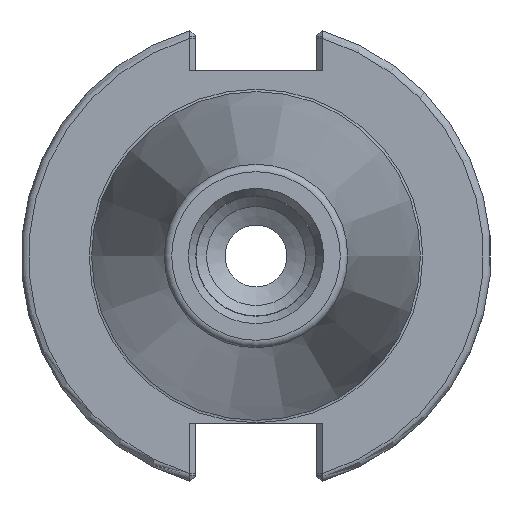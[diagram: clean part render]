
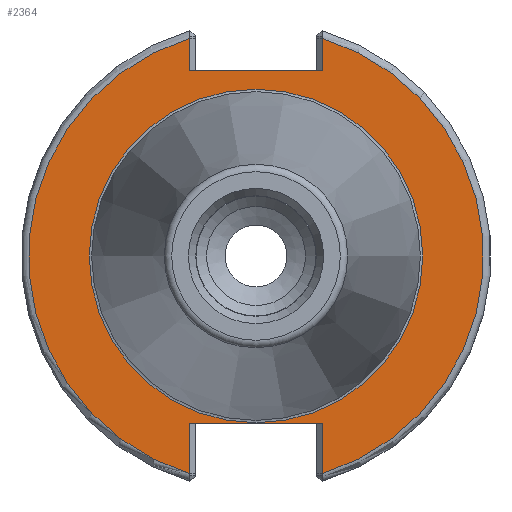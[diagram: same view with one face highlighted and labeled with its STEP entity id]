
A CAD part, left-side view. The second image highlights one B-rep face of the part: STEP entity #2364.
In plain terms, the highlighted planar face has unit normal (-1, 0, 0).
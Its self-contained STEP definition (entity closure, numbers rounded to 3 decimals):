
#141=FACE_BOUND('',#420,.T.);
#156=PLANE('',#2606);
#278=FACE_OUTER_BOUND('',#419,.T.);
#419=EDGE_LOOP('',(#1743,#1744,#1745,#1746,#1747,#1748,#1749,#1750));
#420=EDGE_LOOP('',(#1751,#1752));
#546=LINE('',#3628,#681);
#559=LINE('',#3757,#694);
#561=LINE('',#3836,#696);
#562=LINE('',#3838,#697);
#563=LINE('',#3841,#698);
#564=LINE('',#3842,#699);
#681=VECTOR('',#2955,10.);
#694=VECTOR('',#2988,10.);
#696=VECTOR('',#3010,10.);
#697=VECTOR('',#3011,10.);
#698=VECTOR('',#3014,10.);
#699=VECTOR('',#3015,10.);
#850=CIRCLE('',#2605,30.75);
#851=CIRCLE('',#2607,30.75);
#852=CIRCLE('',#2608,22.55);
#853=CIRCLE('',#2609,22.55);
#994=VERTEX_POINT('',#3625);
#995=VERTEX_POINT('',#3627);
#1009=VERTEX_POINT('',#3750);
#1012=VERTEX_POINT('',#3755);
#1019=VERTEX_POINT('',#3814);
#1021=VERTEX_POINT('',#3835);
#1022=VERTEX_POINT('',#3837);
#1023=VERTEX_POINT('',#3839);
#1024=VERTEX_POINT('',#3843);
#1025=VERTEX_POINT('',#3844);
#1261=EDGE_CURVE('',#995,#994,#546,.T.);
#1282=EDGE_CURVE('',#1012,#1009,#559,.T.);
#1294=EDGE_CURVE('',#1009,#1019,#850,.T.);
#1297=EDGE_CURVE('',#1012,#1021,#561,.T.);
#1298=EDGE_CURVE('',#1022,#1021,#562,.T.);
#1299=EDGE_CURVE('',#1023,#1022,#851,.T.);
#1300=EDGE_CURVE('',#995,#1023,#563,.T.);
#1301=EDGE_CURVE('',#1019,#994,#564,.T.);
#1302=EDGE_CURVE('',#1024,#1025,#852,.T.);
#1303=EDGE_CURVE('',#1025,#1024,#853,.T.);
#1743=ORIENTED_EDGE('',*,*,#1282,.F.);
#1744=ORIENTED_EDGE('',*,*,#1297,.T.);
#1745=ORIENTED_EDGE('',*,*,#1298,.F.);
#1746=ORIENTED_EDGE('',*,*,#1299,.F.);
#1747=ORIENTED_EDGE('',*,*,#1300,.F.);
#1748=ORIENTED_EDGE('',*,*,#1261,.T.);
#1749=ORIENTED_EDGE('',*,*,#1301,.F.);
#1750=ORIENTED_EDGE('',*,*,#1294,.F.);
#1751=ORIENTED_EDGE('',*,*,#1302,.F.);
#1752=ORIENTED_EDGE('',*,*,#1303,.F.);
#2364=ADVANCED_FACE('',(#278,#141),#156,.T.);
#2605=AXIS2_PLACEMENT_3D('',#3815,#3006,#3007);
#2606=AXIS2_PLACEMENT_3D('',#3834,#3008,#3009);
#2607=AXIS2_PLACEMENT_3D('',#3840,#3012,#3013);
#2608=AXIS2_PLACEMENT_3D('',#3845,#3016,#3017);
#2609=AXIS2_PLACEMENT_3D('',#3846,#3018,#3019);
#2955=DIRECTION('',(0.,1.,0.));
#2988=DIRECTION('',(0.,0.,-1.));
#3006=DIRECTION('center_axis',(1.,0.,0.));
#3007=DIRECTION('ref_axis',(0.,-1.,0.));
#3008=DIRECTION('center_axis',(-1.,0.,0.));
#3009=DIRECTION('ref_axis',(0.,0.,1.));
#3010=DIRECTION('',(0.,-1.,0.));
#3011=DIRECTION('',(0.,0.,1.));
#3012=DIRECTION('center_axis',(1.,0.,0.));
#3013=DIRECTION('ref_axis',(0.,-1.,0.));
#3014=DIRECTION('',(0.,0.,1.));
#3015=DIRECTION('',(0.,0.,-1.));
#3016=DIRECTION('center_axis',(-1.,0.,0.));
#3017=DIRECTION('ref_axis',(0.,-1.,0.));
#3018=DIRECTION('center_axis',(-1.,0.,0.));
#3019=DIRECTION('ref_axis',(0.,-1.,0.));
#3625=CARTESIAN_POINT('',(3.175,8.992,25.019));
#3627=CARTESIAN_POINT('',(3.175,-8.992,25.019));
#3628=CARTESIAN_POINT('',(3.175,19.971,25.019));
#3750=CARTESIAN_POINT('',(3.175,8.992,-29.406));
#3755=CARTESIAN_POINT('',(3.175,8.992,-22.606));
#3757=CARTESIAN_POINT('',(3.175,8.992,-11.303));
#3814=CARTESIAN_POINT('',(3.175,8.992,29.406));
#3815=CARTESIAN_POINT('Origin',(3.175,0.,0.));
#3834=CARTESIAN_POINT('Origin',(3.175,31.75,0.));
#3835=CARTESIAN_POINT('',(3.175,-8.992,-22.606));
#3836=CARTESIAN_POINT('',(3.175,11.779,-22.606));
#3837=CARTESIAN_POINT('',(3.175,-8.992,-29.406));
#3838=CARTESIAN_POINT('',(3.175,-8.992,-17.5));
#3839=CARTESIAN_POINT('',(3.175,-8.992,29.406));
#3840=CARTESIAN_POINT('Origin',(3.175,0.,0.));
#3841=CARTESIAN_POINT('',(3.175,-8.992,12.51));
#3842=CARTESIAN_POINT('',(3.175,8.992,17.5));
#3843=CARTESIAN_POINT('',(3.175,22.55,0.));
#3844=CARTESIAN_POINT('',(3.175,0.,22.55));
#3845=CARTESIAN_POINT('Origin',(3.175,0.,0.));
#3846=CARTESIAN_POINT('Origin',(3.175,0.,0.));
